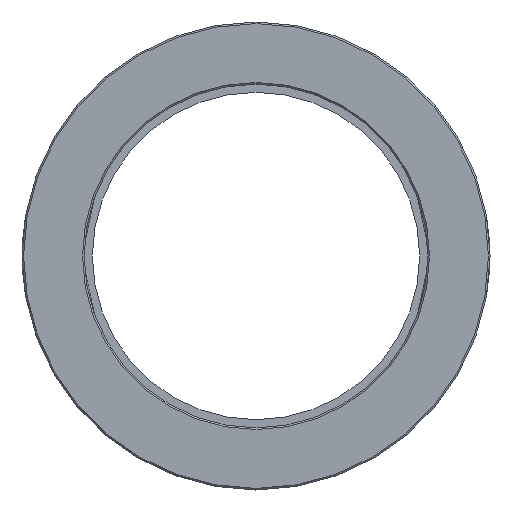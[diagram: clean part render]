
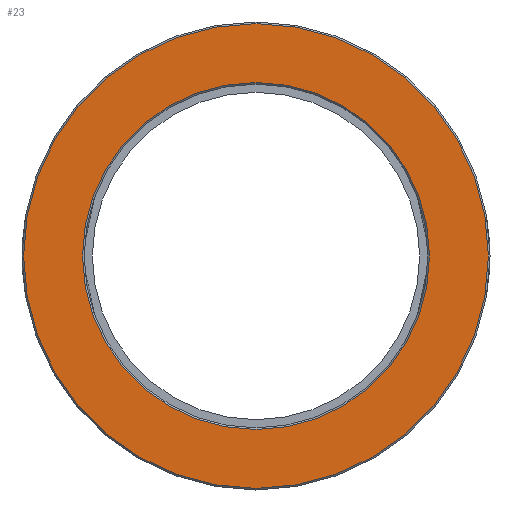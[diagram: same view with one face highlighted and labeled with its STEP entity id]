
A CAD part, left-side view. The second image highlights one B-rep face of the part: STEP entity #23.
In plain terms, the highlighted planar face has unit normal (-1, 0, 0).
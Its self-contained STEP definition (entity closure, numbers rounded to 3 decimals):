
#23 = ADVANCED_FACE ( 'NONE', ( #175, #76 ), #356, .F. ) ;
#39 = VERTEX_POINT ( 'NONE', #479 ) ;
#76 = FACE_OUTER_BOUND ( 'NONE', #695, .T. ) ;
#129 = CARTESIAN_POINT ( 'NONE',  ( 0., 52.5, 0. ) ) ;
#175 = FACE_BOUND ( 'NONE', #1496, .T. ) ;
#277 = EDGE_CURVE ( 'NONE', #946, #1105, #1008, .T. ) ;
#356 = PLANE ( 'NONE',  #1518 ) ;
#401 = EDGE_CURVE ( 'NONE', #1105, #946, #1205, .T. ) ;
#414 = ORIENTED_EDGE ( 'NONE', *, *, #1019, .T. ) ;
#461 = CARTESIAN_POINT ( 'NONE',  ( 0., 0., 71. ) ) ;
#479 = CARTESIAN_POINT ( 'NONE',  ( 0., 0., 53. ) ) ;
#537 = ORIENTED_EDGE ( 'NONE', *, *, #277, .T. ) ;
#652 = DIRECTION ( 'NONE',  ( 1., 0., 0. ) ) ;
#664 = DIRECTION ( 'NONE',  ( 0., 0., -1. ) ) ;
#675 = DIRECTION ( 'NONE',  ( 1., 0., 0. ) ) ;
#691 = AXIS2_PLACEMENT_3D ( 'NONE', #1030, #652, #1056 ) ;
#695 = EDGE_LOOP ( 'NONE', ( #537, #745 ) ) ;
#717 = AXIS2_PLACEMENT_3D ( 'NONE', #1013, #1024, #1132 ) ;
#745 = ORIENTED_EDGE ( 'NONE', *, *, #401, .T. ) ;
#809 = CARTESIAN_POINT ( 'NONE',  ( 0., 0., 0. ) ) ;
#828 = CARTESIAN_POINT ( 'NONE',  ( 0., 0., -53. ) ) ;
#864 = AXIS2_PLACEMENT_3D ( 'NONE', #1135, #1500, #1087 ) ;
#878 = AXIS2_PLACEMENT_3D ( 'NONE', #809, #1322, #1208 ) ;
#946 = VERTEX_POINT ( 'NONE', #1282 ) ;
#1008 = CIRCLE ( 'NONE', #864, 71. ) ;
#1013 = CARTESIAN_POINT ( 'NONE',  ( 0., 0., 0. ) ) ;
#1019 = EDGE_CURVE ( 'NONE', #39, #1276, #1164, .T. ) ;
#1024 = DIRECTION ( 'NONE',  ( 1., 0., 0. ) ) ;
#1030 = CARTESIAN_POINT ( 'NONE',  ( 0., 0., 0. ) ) ;
#1047 = EDGE_CURVE ( 'NONE', #1276, #39, #1125, .T. ) ;
#1056 = DIRECTION ( 'NONE',  ( 0., 0., -1. ) ) ;
#1087 = DIRECTION ( 'NONE',  ( 0., 0., -1. ) ) ;
#1089 = ORIENTED_EDGE ( 'NONE', *, *, #1047, .T. ) ;
#1105 = VERTEX_POINT ( 'NONE', #461 ) ;
#1125 = CIRCLE ( 'NONE', #691, 53. ) ;
#1132 = DIRECTION ( 'NONE',  ( 0., 0., -1. ) ) ;
#1135 = CARTESIAN_POINT ( 'NONE',  ( 0., 0., 0. ) ) ;
#1164 = CIRCLE ( 'NONE', #717, 53. ) ;
#1205 = CIRCLE ( 'NONE', #878, 71. ) ;
#1208 = DIRECTION ( 'NONE',  ( 0., 0., -1. ) ) ;
#1276 = VERTEX_POINT ( 'NONE', #828 ) ;
#1282 = CARTESIAN_POINT ( 'NONE',  ( 0., 0., -71. ) ) ;
#1322 = DIRECTION ( 'NONE',  ( -1., 0., 0. ) ) ;
#1496 = EDGE_LOOP ( 'NONE', ( #414, #1089 ) ) ;
#1500 = DIRECTION ( 'NONE',  ( -1., 0., 0. ) ) ;
#1518 = AXIS2_PLACEMENT_3D ( 'NONE', #129, #675, #664 ) ;
